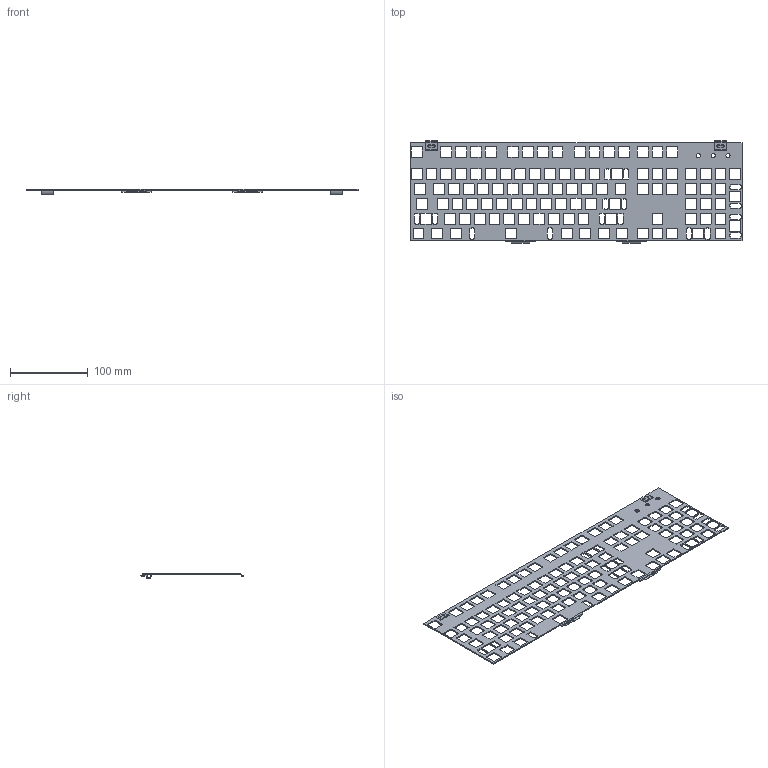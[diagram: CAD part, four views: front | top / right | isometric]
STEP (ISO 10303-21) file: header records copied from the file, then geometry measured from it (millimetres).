
FILE_DESCRIPTION(('STEP AP242 Edition 2','STEP AP242 Edition 2''CAx-IF Rec.Pracs.---Representation and Presentation of Product Manufacturing Information (PMI)---4.0---2014-10-13','STEP AP242 Edition 2''CAx-IF Rec.Pracs.---Representation and Presentation of Product Manufacturing Information (PMI)---4.0---2014-10-13''CAx-IF Rec.Pracs.---3D Tessellated Geometry---0.4---2014-09-14','STEP AP242 Edition 2''CAx-IF Rec.Pracs.---Representation and Presentation of Product Manufacturing Information (PMI)---4.0---2014-10-13''CAx-IF Rec.Pracs.---3D Tessellated Geometry---0.4---2014-09-14''2;1','STEP AP242 Edition 2''CAx-IF Rec.Pracs.---Representation and Presentation of Product Manufacturing Information (PMI)---4.0---2014-10-13''CAx-IF Rec.Pracs.---3D Tessellated Geometry---0.4---2014-09-14''2;1''CAx-IF Rec.Pracs.---User Defined Attributes---1.5---2016-08-15'),'2;1');
FILE_NAME('/vol/tmp/translate-job-12365391357250807974/translate-2322077590236900284/Enclosure - Plate.step','2026-11-02T17:49:58',(''),(''),'ST-DEVELOPER v20','ONSHAPE BY PTC INC, 1.223',' ');
FILE_SCHEMA(('AP242_MANAGED_MODEL_BASED_3D_ENGINEERING_MIM_LF { 1 0 10303 442 3 1 4 }'));
Length unit declared in the file: inch
Products named in the file (1): Plate
Bounding box: 426.79 x 131.15 x 7.53 mm (x, y, z)
Volume: 48818.9 mm3; surface area: 76906.5 mm2
Topology: 1 solids, 1 shells, 1141 faces, 3377 edges, 2230 vertices
Faces by surface type: plane 674, cylinder 447, bspline 12, sphere 8
Full cylindrical faces by diameter (mm): 5.233 x3
Entity records: 39119 total; most frequent: CARTESIAN_POINT 7146, ORIENTED_EDGE 6716, DIRECTION 6512, EDGE_CURVE 3358, LINE 2452, VECTOR 2452, VERTEX_POINT 2226, AXIS2_PLACEMENT_3D 2030
